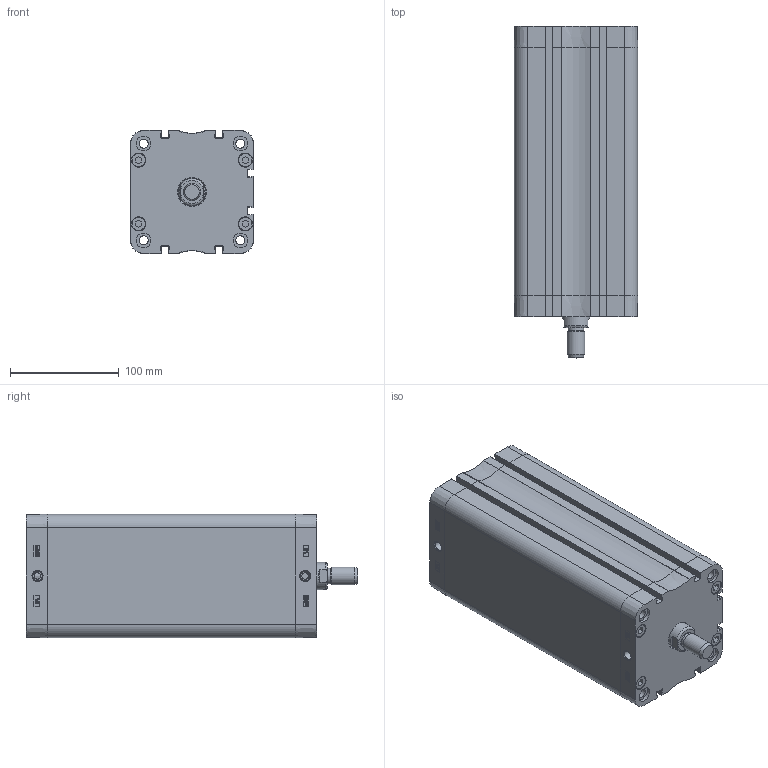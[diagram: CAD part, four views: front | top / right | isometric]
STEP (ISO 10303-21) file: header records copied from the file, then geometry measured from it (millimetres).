
FILE_DESCRIPTION((''),'2;1');
FILE_NAME('T:\Archivio Inventor\- CATALOGHI 2012\SERIE P - NUOVA\PDM\PDM100\PDM100.---.GS.M\PDM100.200.GS.M.stp','2013-02-05T11:45:08',('Administrator'),(''),'Autodesk Inventor 2012','Autodesk Inventor 2012','');
FILE_SCHEMA(('CONFIG_CONTROL_DESIGN'));
Length unit declared in the file: millimetre
Products named in the file (1): PDM100.200.GS.M
Bounding box: 113.3 x 305 x 113.3 mm (x, y, z)
Volume: 1171526.7 mm3; surface area: 350475.8 mm2
Topology: 1 solids, 5 shells, 908 faces, 2136 edges, 1312 vertices
Faces by surface type: plane 371, bspline 226, cylinder 148, cone 81, torus 58, sphere 24
Full cylindrical faces by diameter (mm): 6 x2, 8.3 x4, 8.376 x8, 8.566 x2, 9.976 x4, 12 x1, 12.7 x8, 13.1 x8, 13.5 x8, 14 x1, 16 x1, 25 x1, 25.5 x1, 100 x1, 103.5 x1, 103.7 x1
Entity records: 29573 total; most frequent: CARTESIAN_POINT 9705, ORIENTED_EDGE 4030, DIRECTION 3400, EDGE_CURVE 2015, VERTEX_POINT 1291, AXIS2_PLACEMENT_3D 1208, EDGE_LOOP 1088, VECTOR 984
